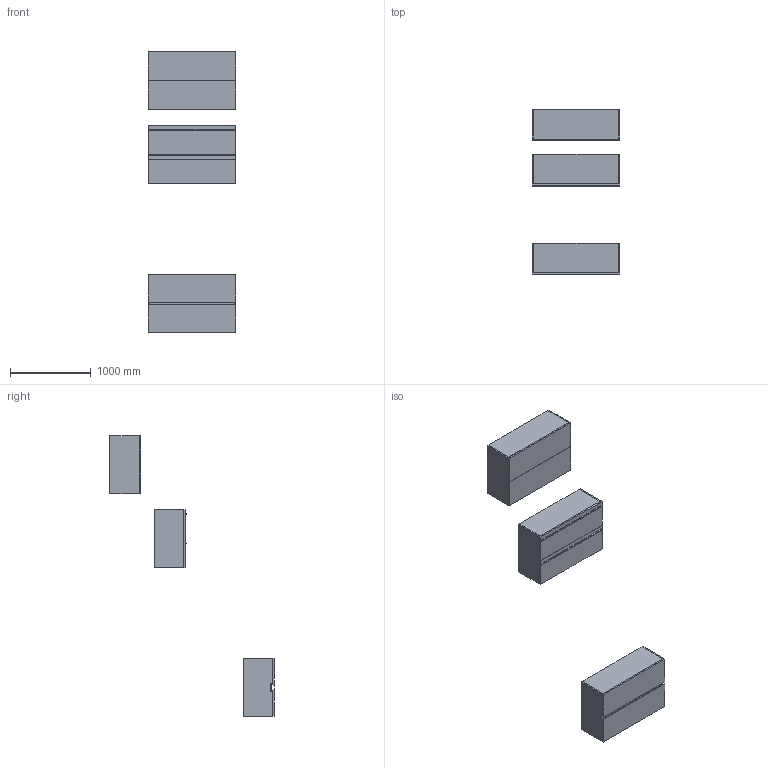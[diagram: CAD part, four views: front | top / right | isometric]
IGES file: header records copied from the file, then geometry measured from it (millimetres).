
Start section: Data from Parasolid IGES Translator 19.0.9, Copyright(c) 2006 Siemens PL M Software. All Rights Reserved.
Global section: file name: noorth-SI-H 72 D 38,8 W 108_8604.igs; native system: By Siemens PLM Incorporated; preprocessor: XPlus GENERIC/IGES 19.0.9; author: Noname; organization: Noname; date: 20200601.115614; units: metre
Bounding box: 1080 x 2036 x 3480.32 mm (x, y, z)
Volume: 112041222.3 mm3; surface area: 17851060.4 mm2
Topology: 24 solids, 24 shells, 248 faces, 544 edges, 324 vertices
Faces by surface type: plane 164, extrusion 36, bspline 32, cylinder 16
